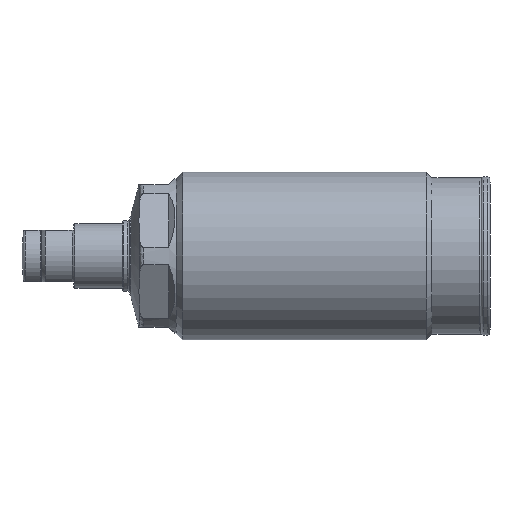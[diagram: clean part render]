
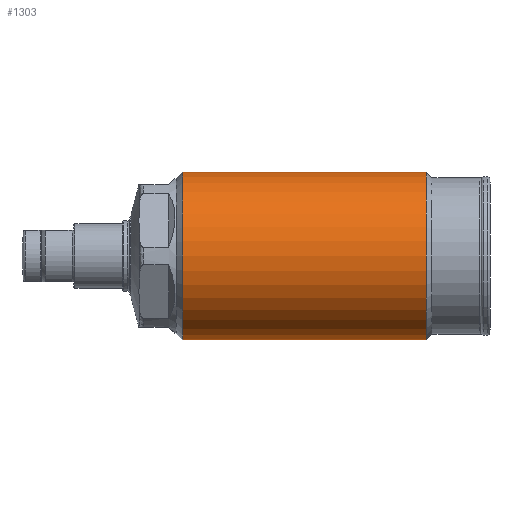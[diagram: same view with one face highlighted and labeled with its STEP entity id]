
A CAD part, left-side view. The second image highlights one B-rep face of the part: STEP entity #1303.
In plain terms, the highlighted cylindrical face has radius 13 mm (diameter 26 mm), a partial arc.
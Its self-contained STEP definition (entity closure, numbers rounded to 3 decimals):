
#933=CYLINDRICAL_SURFACE('',#3637,13.);
#1031=LINE('',#5250,#1131);
#1032=LINE('',#5251,#1132);
#1131=VECTOR('',#4200,1.);
#1132=VECTOR('',#4201,1.);
#1303=ADVANCED_FACE('',(#1526),#933,.T.);
#1526=FACE_OUTER_BOUND('',#1700,.T.);
#1700=EDGE_LOOP('',(#2310,#2311,#2312,#2313));
#2310=ORIENTED_EDGE('',*,*,#2923,.F.);
#2311=ORIENTED_EDGE('',*,*,#3022,.T.);
#2312=ORIENTED_EDGE('',*,*,#2924,.T.);
#2313=ORIENTED_EDGE('',*,*,#3023,.F.);
#2631=VERTEX_POINT('',#5242);
#2632=VERTEX_POINT('',#5244);
#2633=VERTEX_POINT('',#5248);
#2634=VERTEX_POINT('',#5249);
#2923=EDGE_CURVE('',#2634,#2632,#1031,.T.);
#2924=EDGE_CURVE('',#2633,#2631,#1032,.T.);
#3022=EDGE_CURVE('',#2634,#2633,#3274,.T.);
#3023=EDGE_CURVE('',#2632,#2631,#3275,.T.);
#3274=CIRCLE('',#3634,13.);
#3275=CIRCLE('',#3636,13.);
#3634=AXIS2_PLACEMENT_3D('',#5632,#4452,#4453);
#3636=AXIS2_PLACEMENT_3D('',#5634,#4456,#4457);
#3637=AXIS2_PLACEMENT_3D('',#5635,#4458,#4459);
#4200=DIRECTION('',(0.,1.,0.));
#4201=DIRECTION('',(0.,1.,0.));
#4452=DIRECTION('',(0.,1.,0.));
#4453=DIRECTION('',(0.,0.,1.));
#4456=DIRECTION('',(0.,1.,0.));
#4457=DIRECTION('',(0.,0.,1.));
#4458=DIRECTION('',(0.,1.,0.));
#4459=DIRECTION('',(0.,0.,-1.));
#5242=CARTESIAN_POINT('',(0.,51.366,13.));
#5244=CARTESIAN_POINT('',(0.,51.366,-13.));
#5248=CARTESIAN_POINT('',(0.,13.666,13.));
#5249=CARTESIAN_POINT('',(0.,13.666,-13.));
#5250=CARTESIAN_POINT('',(0.,76.764,-13.));
#5251=CARTESIAN_POINT('',(0.,76.764,13.));
#5632=CARTESIAN_POINT('',(0.,13.666,0.));
#5634=CARTESIAN_POINT('',(0.,51.366,0.));
#5635=CARTESIAN_POINT('',(0.,76.764,0.));
